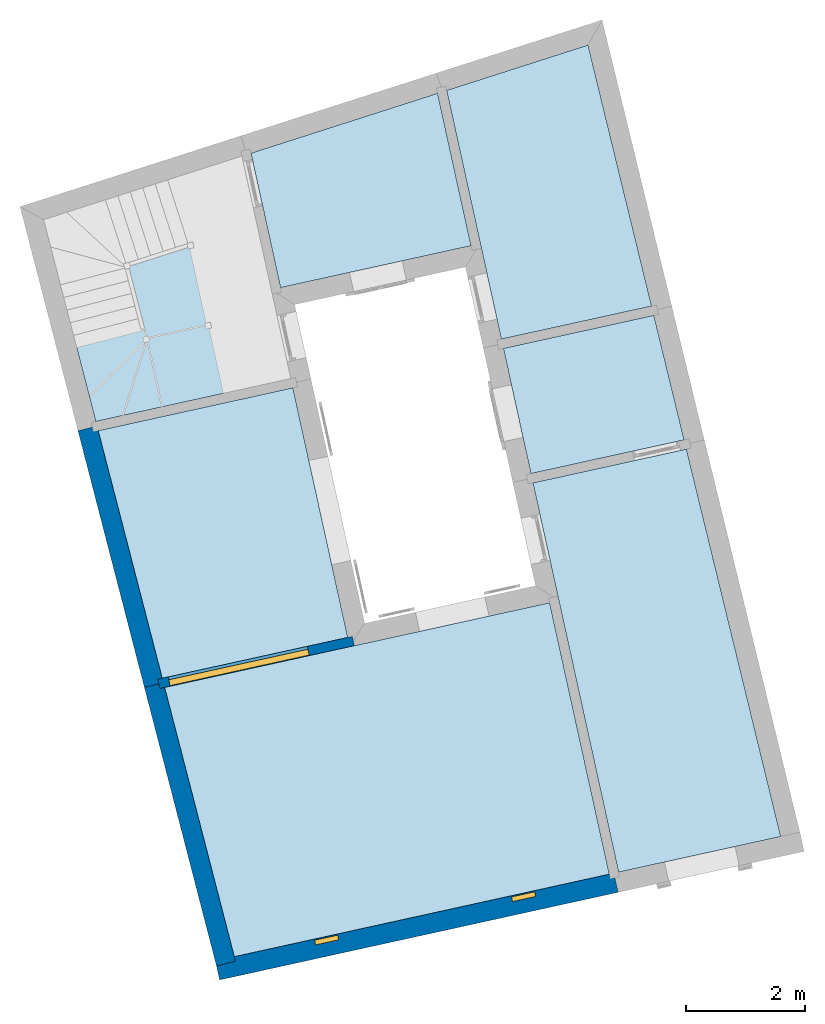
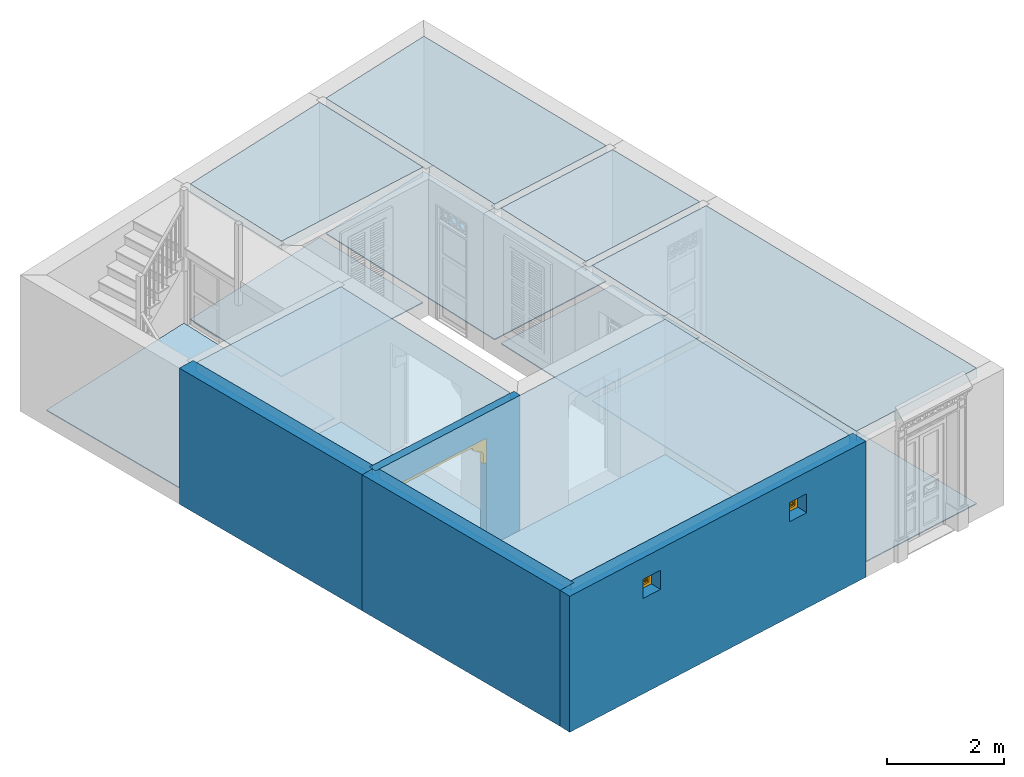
# One storey, part 1 of 14: 13 slabs, 4 walls, 2 windows, 1 door, 3 openings.
"""IFC4 building model written with IfcOpenShell, lengths in metres."""

from ifc_helpers import new_model, si_unit, frame, origin, origin_with_axes, place, context, subcontext, project, spatial, polyline, outline, extrude, faceted_brep, source, transform, mapped, material, layer, layer_set, layer_usage, type_object, type_shapes, element, fill, save


model = new_model("IFC4")

# Units and contexts
model_context = context("Model", 3, world=origin_with_axes())
body_context = subcontext(model_context, "Body", "Model", "MODEL_VIEW")
ifc_project = project(units=[si_unit("PLANEANGLEUNIT", "RADIAN"), si_unit("MASSUNIT", "GRAM", prefix="KILO"), si_unit("FORCEUNIT", "NEWTON", prefix="KILO"), si_unit("LENGTHUNIT", "METRE"), si_unit("AREAUNIT", "SQUARE_METRE"), si_unit("VOLUMEUNIT", "CUBIC_METRE")], contexts=[model_context, model_context])

# Site, building, storey
site_placement = place(None, origin_with_axes())
site = spatial("IfcSite", under=ifc_project, at=site_placement, Name="Site plot-2", CompositionType="ELEMENT")
building_placement = place(None, origin_with_axes())
building = spatial("IfcBuilding", under=site, at=building_placement, Name="Building plot-2", CompositionType="ELEMENT")
storey_placement = place(None, origin_with_axes())
storey = spatial("IfcBuildingStorey", under=building, at=storey_placement, Name="plot-2 0", CompositionType="ELEMENT", Elevation=0.0)

# Slabs
slab_1_placement = place(storey_placement, frame((8.18233238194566, 13.8200661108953, 0.0)))
element("IfcSlab", 1, at=slab_1_placement, inside=storey, Name="My Slab", ObjectType="Slab", PredefinedType="FLOOR", context=body_context, shape_type="SweptSolid", body=[
    extrude(outline(polyline([(0.0, 0.0), (0.880315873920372, -3.40186433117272), (4.16822936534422, -2.67871012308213), (3.34323647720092, 1.07222600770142), (0.0, 0.0)])), origin_with_axes(), (0.0, 0.0, 1.0), 0.02),
])
slab_2_placement = place(storey_placement, frame((9.10275888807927, 10.2631995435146, 2.65)))
element("IfcSlab", 2, at=slab_2_placement, inside=storey, Name="My Slab", ObjectType="Slab", PredefinedType="FLOOR", context=body_context, shape_type="SweptSolid", body=[
    extrude(outline(polyline([(0.0, 0.0), (1.08004624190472, -4.17369593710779), (4.20762669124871, -3.48580589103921), (3.282172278, 0.721891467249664), (0.0, 0.0)])), origin_with_axes(), (0.0, 0.0, 1.0), 0.2),
])
slab_3_placement = place(storey_placement, frame((9.10275888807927, 10.2631995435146, 0.0)))
element("IfcSlab", 3, at=slab_3_placement, inside=storey, Name="My Slab", ObjectType="Slab", PredefinedType="FLOOR", context=body_context, shape_type="SweptSolid", body=[
    extrude(outline(polyline([(0.0, 0.0), (1.08004624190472, -4.17369593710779), (4.20762669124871, -3.48580589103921), (3.282172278, 0.721891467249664), (0.0, 0.0)])), origin_with_axes(), (0.0, 0.0, 1.0), 0.02),
])
slab_4_placement = place(storey_placement, frame((15.3894228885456, 13.3805511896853, 2.65)))
element("IfcSlab", 4, at=slab_4_placement, inside=storey, Name="My Slab", ObjectType="Slab", PredefinedType="FLOOR", context=body_context, shape_type="SweptSolid", body=[
    extrude(outline(polyline([(0.0, 0.0), (-0.565182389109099, 2.56967432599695), (-3.71082430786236, 1.56081985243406), (-3.21214504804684, -0.706489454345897), (0.0, 0.0)])), origin_with_axes(), (0.0, 0.0, 1.0), 0.2),
])
slab_5_placement = place(storey_placement, frame((15.3894228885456, 13.3805511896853, 0.0)))
element("IfcSlab", 5, at=slab_5_placement, inside=storey, Name="My Slab", ObjectType="Slab", PredefinedType="FLOOR", context=body_context, shape_type="SweptSolid", body=[
    extrude(outline(polyline([(0.0, 0.0), (-0.565182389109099, 2.56967432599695), (-3.71082430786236, 1.56081985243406), (-3.21214504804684, -0.706489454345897), (0.0, 0.0)])), origin_with_axes(), (0.0, 0.0, 1.0), 0.02),
])
slab_6_placement = place(storey_placement, frame((20.6099741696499, 3.42109614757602, 2.65)))
element("IfcSlab", 6, at=slab_6_placement, inside=storey, Name="My Slab", ObjectType="Slab", PredefinedType="FLOOR", context=body_context, shape_type="SweptSolid", body=[
    extrude(outline(polyline([(0.0, 0.0), (-1.59038398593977, 6.5307298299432), (-4.17745271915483, 5.96172165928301), (-2.73395737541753, -0.601315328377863), (0.0, 0.0)])), origin_with_axes(), (0.0, 0.0, 1.0), 0.2),
])
slab_7_placement = place(storey_placement, frame((20.6099741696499, 3.42109614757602, 0.0)))
element("IfcSlab", 7, at=slab_7_placement, inside=storey, Name="My Slab", ObjectType="Slab", PredefinedType="FLOOR", context=body_context, shape_type="SweptSolid", body=[
    extrude(outline(polyline([(0.0, 0.0), (-1.59038398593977, 6.5307298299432), (-4.17745271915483, 5.96172165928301), (-2.73395737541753, -0.601315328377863), (0.0, 0.0)])), origin_with_axes(), (0.0, 0.0, 1.0), 0.02),
])
slab_8_placement = place(storey_placement, frame((18.9817233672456, 10.1073217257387, 2.65)))
element("IfcSlab", 8, at=slab_8_placement, inside=storey, Name="My Slab", ObjectType="Slab", PredefinedType="FLOOR", context=body_context, shape_type="SweptSolid", body=[
    extrude(outline(polyline([(0.0, 0.0), (-0.511454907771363, 2.10023104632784), (-3.04778801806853, 1.54238183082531), (-2.58357133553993, -0.568238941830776), (0.0, 0.0)])), origin_with_axes(), (0.0, 0.0, 1.0), 0.2),
])
slab_9_placement = place(storey_placement, frame((18.9817233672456, 10.1073217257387, 0.0)))
element("IfcSlab", 9, at=slab_9_placement, inside=storey, Name="My Slab", ObjectType="Slab", PredefinedType="FLOOR", context=body_context, shape_type="SweptSolid", body=[
    extrude(outline(polyline([(0.0, 0.0), (-0.511454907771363, 2.10023104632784), (-3.04778801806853, 1.54238183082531), (-2.58357133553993, -0.568238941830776), (0.0, 0.0)])), origin_with_axes(), (0.0, 0.0, 1.0), 0.02),
])
slab_10_placement = place(storey_placement, frame((18.4324016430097, 12.363048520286, 2.65)))
element("IfcSlab", 10, at=slab_10_placement, inside=storey, Name="My Slab", ObjectType="Slab", PredefinedType="FLOOR", context=body_context, shape_type="SweptSolid", body=[
    extrude(outline(polyline([(0.0, 0.0), (-1.07166491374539, 4.40066932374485), (-3.45513142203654, 3.63625591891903), (-2.53283571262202, -0.557079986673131), (0.0, 0.0)])), origin_with_axes(), (0.0, 0.0, 1.0), 0.2),
])
slab_11_placement = place(storey_placement, frame((18.4324016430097, 12.363048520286, 0.0)))
element("IfcSlab", 11, at=slab_11_placement, inside=storey, Name="My Slab", ObjectType="Slab", PredefinedType="FLOOR", context=body_context, shape_type="SweptSolid", body=[
    extrude(outline(polyline([(0.0, 0.0), (-1.07166491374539, 4.40066932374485), (-3.45513142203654, 3.63625591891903), (-2.53283571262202, -0.557079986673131), (0.0, 0.0)])), origin_with_axes(), (0.0, 0.0, 1.0), 0.02),
])
slab_12_placement = place(storey_placement, frame((10.2229157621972, 5.93450137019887, 2.65)))
element("IfcSlab", 12, at=slab_12_placement, inside=storey, Name="My Slab", ObjectType="Slab", PredefinedType="FLOOR", context=body_context, shape_type="SweptSolid", body=[
    extrude(outline(polyline([(0.0, 0.0), (1.17473131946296, -4.53959390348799), (7.49683605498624, -3.14908996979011), (6.49024926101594, 1.42748617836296), (0.0, 0.0)])), origin_with_axes(), (0.0, 0.0, 1.0), 0.2),
])
slab_13_placement = place(storey_placement, frame((10.2229157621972, 5.93450137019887, 0.0)))
element("IfcSlab", 13, at=slab_13_placement, inside=storey, Name="My Slab", ObjectType="Slab", PredefinedType="FLOOR", context=body_context, shape_type="SweptSolid", body=[
    extrude(outline(polyline([(0.0, 0.0), (1.17473131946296, -4.53959390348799), (7.49683605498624, -3.14908996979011), (6.49024926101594, 1.42748617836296), (0.0, 0.0)])), origin_with_axes(), (0.0, 0.0, 1.0), 0.02),
])

# Wall, openings, windows
ifc_material_1 = material(Name="Masonry")
ifc_layer_1 = layer(ifc_material_1, 0.33, ventilated=False)
ifc_layer_set_1 = layer_set([ifc_layer_1], Name="exterior_0.08_0.25")
ifc_layer_usage_1 = layer_usage(ifc_layer_set_1, "AXIS2", "POSITIVE", -0.25)
wall_type_1 = type_object("IfcWallType", Name="exterior_0.08_0.25", PredefinedType="SOLIDWALL", material=ifc_layer_set_1)
wall_1_placement = place(storey_placement, frame((11.33951719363, 1.30021004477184, 0.0), z_axis=(0.0, 0.0, 1.0), x_axis=(0.976656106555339, 0.214808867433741, 0.0)))
wall_1 = element("IfcWall", 14, at=wall_1_placement, inside=storey, type_object=wall_type_1, material=ifc_layer_usage_1, Name="exterior", context=body_context, shape_type="SweptSolid", body=[
    extrude(outline(polyline([(-0.25, 0.08), (-0.250000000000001, -0.25), (6.63032952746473, -0.25), (6.63032952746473, 0.0799999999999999), (-0.25, 0.08)])), origin_with_axes(), (0.0, 0.0, 1.0), 2.85),
])
opening_1_placement = place(wall_1_placement, frame((1.45758238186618, 0.0, 2.0)))
opening_1 = element("IfcOpeningElement", 15, at=opening_1_placement, cuts=wall_1, Name="My Opening", ObjectType="Opening", context=body_context, shape_type="SweptSolid", body=[
    extrude(outline(polyline([(0.0, -0.27), (0.399999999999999, -0.27), (0.399999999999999, 1.1), (-6.66133814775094e-16, 1.1), (0.0, -0.27)])), origin_with_axes(), (0.0, 0.0, 1.0), 0.4),
])
opening_2_placement = place(wall_1_placement, frame((4.85758238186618, 0.0, 2.0)))
opening_2 = element("IfcOpeningElement", 16, at=opening_2_placement, cuts=wall_1, Name="My Opening", ObjectType="Opening", context=body_context, shape_type="SweptSolid", body=[
    extrude(outline(polyline([(0.0, -0.27), (0.400000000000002, -0.27), (0.4, 1.1), (8.88178419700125e-16, 1.1), (0.0, -0.27)])), origin_with_axes(), (0.0, 0.0, 1.0), 0.4),
])
window_type = type_object("IfcWindowType", Name="barred_window", PartitioningType="DOUBLE_PANEL_HORIZONTAL", PredefinedType="NOTDEFINED")
shared_shape_1 = source(origin(), body_context, "Body", "Brep", [
    faceted_brep([(0.4, 0.25, 0.4), (0.0, 0.25, 0.4), (0.06, 0.25, 0.34), (0.34, 0.25, 0.34), (0.06, 0.33, 0.34), (0.34, 0.33, 0.34), (0.34, 0.25, 0.06), (0.4, 0.25, 0.0), (0.4, 0.33, 0.4), (0.0, 0.33, 0.4), (0.0, 0.25, 0.0), (0.06, 0.25, 0.06), (0.06, 0.33, 0.06), (0.34, 0.33, 0.06), (0.4, 0.33, 0.0), (0.0, 0.33, 0.0), (0.136152, 0.28, 0.08), (0.08, 0.28, 0.08), (0.06, 0.28, 0.06), (0.136152, 0.28, 0.06), (0.136152, 0.29, 0.08), (0.08, 0.29, 0.08), (0.06, 0.28, 0.136152), (0.08, 0.28, 0.136152), (0.06, 0.29, 0.06), (0.136152, 0.29, 0.06), (0.170294, 0.28, 0.08), (0.170294, 0.28, 0.06), (0.136152, 0.28, 0.136152), (0.136152, 0.29, 0.136152), (0.08, 0.29, 0.136152), (0.06, 0.29, 0.136152), (0.08, 0.28, 0.170294), (0.06, 0.28, 0.170294), (0.170294, 0.29, 0.06), (0.229706, 0.28, 0.08), (0.229706, 0.28, 0.06), (0.156152, 0.28, 0.094142), (0.156152, 0.28, 0.136152), (0.185858, 0.28, 0.123848), (0.185858, 0.29, 0.123848), (0.156152, 0.29, 0.094142), (0.156152, 0.29, 0.136152), (0.229706, 0.29, 0.08), (0.170294, 0.29, 0.08), (0.2, 0.28, 0.109706), (0.2, 0.29, 0.109706), (0.06, 0.29, 0.170294), (0.094142, 0.28, 0.156152), (0.08, 0.28, 0.229706), (0.06, 0.28, 0.229706), (0.229706, 0.29, 0.06), (0.263848, 0.28, 0.08), (0.263848, 0.28, 0.06), (0.156152, 0.28, 0.156152), (0.136152, 0.28, 0.156152), (0.173553, 0.28, 0.136152), (0.173553, 0.29, 0.136152), (0.156152, 0.29, 0.156152), (0.136152, 0.29, 0.156152), (0.094142, 0.29, 0.156152), (0.08, 0.29, 0.170294), (0.06, 0.29, 0.229706), (0.123848, 0.28, 0.185858), (0.109706, 0.28, 0.2), (0.08, 0.29, 0.229706), (0.08, 0.28, 0.263848), (0.06, 0.28, 0.263848), (0.263848, 0.29, 0.06), (0.2, 0.28, 0.13799), (0.214142, 0.28, 0.123848), (0.34, 0.28, 0.06), (0.32, 0.28, 0.08), (0.181838, 0.28, 0.156152), (0.136152, 0.28, 0.173553), (0.156152, 0.28, 0.181838), (0.181838, 0.29, 0.156152), (0.2, 0.29, 0.13799), (0.214142, 0.29, 0.123848), (0.136152, 0.29, 0.173553), (0.156152, 0.29, 0.181838), (0.243848, 0.28, 0.094142), (0.243848, 0.29, 0.094142), (0.263848, 0.28, 0.136152), (0.263848, 0.29, 0.08), (0.263848, 0.29, 0.136152), (0.32, 0.29, 0.08), (0.243848, 0.28, 0.136152), (0.243848, 0.29, 0.136152), (0.06, 0.29, 0.263848), (0.123848, 0.29, 0.185858), (0.13799, 0.28, 0.2), (0.123848, 0.28, 0.214142), (0.109706, 0.29, 0.2), (0.094142, 0.28, 0.243848), (0.08, 0.28, 0.32), (0.06, 0.28, 0.34), (0.34, 0.29, 0.06), (0.218162, 0.28, 0.156152), (0.226447, 0.28, 0.136152), (0.34, 0.28, 0.229706), (0.32, 0.28, 0.229706), (0.32, 0.28, 0.170294), (0.32, 0.28, 0.136152), (0.218162, 0.29, 0.156152), (0.226447, 0.29, 0.136152), (0.13799, 0.29, 0.2), (0.32, 0.29, 0.136152), (0.08, 0.29, 0.263848), (0.06, 0.29, 0.34), (0.136152, 0.28, 0.226447), (0.156152, 0.28, 0.218162), (0.094142, 0.29, 0.243848), (0.123848, 0.29, 0.214142), (0.136152, 0.28, 0.243848), (0.136152, 0.28, 0.263848), (0.08, 0.29, 0.32), (0.136152, 0.28, 0.34), (0.136152, 0.28, 0.32), (0.34, 0.29, 0.229706), (0.243848, 0.28, 0.156152), (0.263848, 0.28, 0.156152), (0.34, 0.28, 0.263848), (0.32, 0.28, 0.263848), (0.32, 0.29, 0.229706), (0.32, 0.29, 0.170294), (0.290294, 0.28, 0.2), (0.276152, 0.28, 0.185858), (0.305858, 0.28, 0.156152), (0.243848, 0.29, 0.156152), (0.263848, 0.29, 0.156152), (0.305858, 0.29, 0.156152), (0.276152, 0.29, 0.185858), (0.290294, 0.29, 0.2), (0.136152, 0.29, 0.34), (0.136152, 0.29, 0.226447), (0.156152, 0.29, 0.218162), (0.156152, 0.28, 0.243848), (0.136152, 0.29, 0.243848), (0.156152, 0.28, 0.263848), (0.136152, 0.29, 0.263848), (0.136152, 0.29, 0.32), (0.170294, 0.28, 0.32), (0.170294, 0.28, 0.34), (0.34, 0.29, 0.263848), (0.243848, 0.28, 0.181838), (0.263848, 0.28, 0.173553), (0.34, 0.28, 0.34), (0.32, 0.28, 0.32), (0.305858, 0.28, 0.243848), (0.276152, 0.28, 0.214142), (0.26201, 0.28, 0.2), (0.243848, 0.29, 0.181838), (0.263848, 0.29, 0.173553), (0.26201, 0.29, 0.2), (0.276152, 0.29, 0.214142), (0.32, 0.29, 0.263848), (0.170294, 0.29, 0.34), (0.156152, 0.29, 0.243848), (0.173553, 0.28, 0.263848), (0.181838, 0.28, 0.243848), (0.156152, 0.28, 0.305858), (0.229706, 0.28, 0.32), (0.229706, 0.28, 0.34), (0.34, 0.29, 0.34), (0.263848, 0.28, 0.34), (0.263848, 0.28, 0.32), (0.32, 0.29, 0.32), (0.263848, 0.28, 0.263848), (0.263848, 0.28, 0.243848), (0.305858, 0.29, 0.243848), (0.263848, 0.28, 0.226447), (0.243848, 0.28, 0.218162), (0.243848, 0.29, 0.218162), (0.263848, 0.29, 0.226447), (0.156152, 0.29, 0.263848), (0.170294, 0.29, 0.32), (0.229706, 0.29, 0.34), (0.181838, 0.29, 0.243848), (0.173553, 0.29, 0.263848), (0.185858, 0.28, 0.276152), (0.2, 0.28, 0.26201), (0.156152, 0.29, 0.305858), (0.229706, 0.29, 0.32), (0.263848, 0.29, 0.34), (0.263848, 0.29, 0.32), (0.263848, 0.29, 0.263848), (0.243848, 0.28, 0.243848), (0.243848, 0.28, 0.263848), (0.263848, 0.29, 0.243848), (0.243848, 0.29, 0.243848), (0.2, 0.29, 0.26201), (0.185858, 0.29, 0.276152), (0.214142, 0.28, 0.276152), (0.218162, 0.28, 0.243848), (0.226447, 0.28, 0.263848), (0.243848, 0.28, 0.305858), (0.2, 0.28, 0.290294), (0.2, 0.29, 0.290294), (0.243848, 0.29, 0.263848), (0.218162, 0.29, 0.243848), (0.214142, 0.29, 0.276152), (0.226447, 0.29, 0.263848), (0.243848, 0.29, 0.305858)], [[[0, 1, 2, 3]], [[3, 2, 4, 5]], [[3, 6, 7, 0]], [[1, 0, 8, 9]], [[1, 10, 11, 2]], [[2, 11, 12, 4]], [[9, 8, 5, 4]], [[6, 3, 5, 13]], [[6, 11, 10, 7]], [[0, 7, 14, 8]], [[10, 1, 9, 15]], [[11, 6, 13, 12]], [[4, 12, 15, 9]], [[8, 14, 13, 5]], [[7, 10, 15, 14]], [[12, 13, 14, 15]], [[16, 17, 18, 19]], [[17, 16, 20, 21]], [[22, 18, 17, 23]], [[19, 18, 24, 25]], [[26, 16, 19, 27]], [[16, 28, 29, 20]], [[21, 20, 25, 24]], [[23, 17, 21, 30]], [[18, 22, 31, 24]], [[23, 32, 33, 22]], [[27, 19, 25, 34]], [[35, 26, 27, 36]], [[28, 16, 37, 38]], [[37, 39, 40, 41]], [[38, 37, 41, 42]], [[20, 29, 42, 41]], [[26, 35, 43, 44]], [[45, 26, 44, 46]], [[20, 44, 34, 25]], [[28, 23, 30, 29]], [[24, 31, 30, 21]], [[22, 33, 47, 31]], [[48, 32, 23]], [[32, 49, 50, 33]], [[36, 27, 34, 51]], [[39, 37, 26, 45]], [[52, 35, 36, 53]], [[38, 54, 55, 28]], [[39, 56, 57, 40]], [[41, 40, 46, 44]], [[56, 38, 42, 57]], [[58, 42, 29, 59]], [[35, 45, 46, 43]], [[44, 43, 51, 34]], [[23, 28, 55, 48]], [[29, 30, 60, 59]], [[61, 30, 31, 47]], [[33, 50, 62, 47]], [[48, 63, 64, 32]], [[49, 32, 61, 65]], [[49, 66, 67, 50]], [[53, 36, 51, 68]], [[69, 39, 45, 70]], [[53, 71, 72, 52]], [[73, 54, 38, 56]], [[74, 55, 54, 75]], [[56, 39, 69, 73]], [[40, 57, 76, 77]], [[40, 77, 78, 46]], [[58, 76, 57, 42]], [[59, 79, 80, 58]], [[45, 35, 81, 70]], [[43, 46, 78, 82]], [[83, 52, 84, 85]], [[82, 84, 43]], [[52, 72, 86, 84]], [[43, 84, 68, 51]], [[44, 20, 41]], [[70, 81, 82, 78]], [[81, 87, 88, 82]], [[48, 55, 59, 60]], [[61, 60, 30]], [[65, 61, 47, 62]], [[50, 67, 89, 62]], [[63, 48, 60, 90]], [[63, 91, 92, 64]], [[32, 64, 93, 61]], [[64, 49, 65, 93]], [[94, 66, 49]], [[66, 95, 96, 67]], [[71, 53, 68, 97]], [[98, 69, 70, 99]], [[81, 52, 83, 87]], [[72, 71, 100]], [[100, 101, 102]], [[103, 72, 100]], [[100, 102, 103]], [[54, 73, 76, 58]], [[55, 74, 79, 59]], [[75, 54, 58, 80]], [[63, 74, 75, 91]], [[73, 69, 77, 76]], [[77, 104, 105, 78]], [[79, 90, 106, 80]], [[84, 82, 88, 85]], [[103, 83, 85, 107]], [[72, 103, 107, 86]], [[97, 68, 84, 86]], [[99, 70, 78, 105]], [[87, 99, 105, 88]], [[90, 60, 61, 93]], [[108, 65, 62, 89]], [[67, 96, 109, 89]], [[74, 63, 90, 79]], [[110, 92, 91, 111]], [[49, 64, 92, 94]], [[93, 65, 112, 113]], [[94, 114, 115, 66]], [[95, 66, 108, 116]], [[117, 96, 95, 118]], [[100, 71, 97, 119]], [[69, 98, 104, 77]], [[99, 87, 120, 98]], [[87, 83, 121, 120]], [[101, 100, 122, 123]], [[102, 101, 124, 125]], [[121, 83, 103]], [[103, 102, 126]], [[126, 127, 128]], [[128, 121, 103]], [[103, 126, 128]], [[91, 75, 80, 106]], [[88, 105, 104, 129]], [[106, 90, 93, 113]], [[85, 88, 129, 130]], [[107, 85, 130]], [[131, 132, 133]], [[107, 130, 131]], [[133, 125, 107]], [[107, 131, 133]], [[124, 119, 97]], [[97, 86, 107]], [[107, 125, 124]], [[97, 107, 124]], [[108, 112, 65]], [[116, 108, 89, 109]], [[96, 117, 134, 109]], [[92, 110, 135, 113]], [[111, 91, 106, 136]], [[114, 110, 111, 137]], [[94, 92, 113, 112]], [[114, 94, 112, 138]], [[114, 137, 139, 115]], [[66, 115, 140, 108]], [[118, 95, 116, 141]], [[118, 142, 143, 117]], [[122, 100, 119, 144]], [[98, 120, 129, 104]], [[145, 120, 121, 146]], [[122, 147, 148, 123]], [[123, 149, 101]], [[101, 126, 133, 124]], [[126, 102, 125, 133]], [[127, 126, 150, 151]], [[128, 127, 132, 131]], [[121, 128, 131, 130]], [[113, 135, 136, 106]], [[129, 152, 153, 130]], [[133, 132, 154, 155]], [[119, 124, 156, 144]], [[138, 112, 108, 140]], [[109, 134, 141, 116]], [[117, 143, 157, 134]], [[110, 114, 138, 135]], [[137, 111, 136, 158]], [[159, 139, 137, 160]], [[118, 115, 139, 161]], [[115, 118, 141, 140]], [[161, 142, 118]], [[162, 163, 143, 142]], [[147, 122, 144, 164]], [[120, 145, 152, 129]], [[146, 121, 130, 153]], [[146, 127, 151, 145]], [[147, 165, 166, 148]], [[123, 148, 167, 156]], [[149, 123, 168, 169]], [[149, 150, 126, 101]], [[155, 170, 124, 133]], [[151, 150, 171, 172]], [[127, 146, 153, 132]], [[135, 138, 158, 136]], [[132, 153, 152, 154]], [[155, 154, 173, 174]], [[170, 156, 124]], [[164, 144, 156, 167]], [[158, 138, 140, 175]], [[176, 141, 134, 157]], [[143, 163, 177, 157]], [[160, 137, 158, 178]], [[139, 159, 179, 175]], [[180, 159, 160, 181]], [[161, 139, 175, 182]], [[140, 141, 182, 175]], [[166, 165, 163, 162]], [[162, 142, 176, 183]], [[165, 147, 164, 184]], [[145, 151, 154, 152]], [[148, 166, 185, 167]], [[156, 186, 168, 123]], [[187, 169, 168, 188]], [[149, 169, 189, 170]], [[150, 149, 170, 155]], [[171, 150, 155, 174]], [[171, 169, 187, 172]], [[151, 172, 173, 154]], [[189, 174, 173, 190]], [[156, 170, 189, 186]], [[184, 164, 167, 185]], [[175, 179, 178, 158]], [[176, 182, 141]], [[177, 183, 176, 157]], [[163, 165, 184, 177]], [[181, 160, 178, 191]], [[159, 180, 192, 179]], [[180, 161, 182, 192]], [[193, 181, 194, 195]], [[196, 162, 197, 193]], [[180, 197, 142, 161]], [[197, 180, 181, 193]], [[142, 197, 198, 176]], [[162, 196, 166]], [[35, 52, 81]], [[197, 162, 183, 198]], [[185, 166, 168, 186]], [[196, 188, 168, 166]], [[187, 188, 195, 194]], [[169, 171, 174, 189]], [[172, 187, 190, 173]], [[189, 190, 199, 186]], [[184, 185, 183, 177]], [[179, 192, 191, 178]], [[176, 198, 192, 182]], [[194, 181, 191, 200]], [[191, 192, 198, 201]], [[26, 37, 16]], [[193, 195, 202, 201]], [[196, 193, 201, 203]], [[191, 201, 202, 200]], [[183, 203, 201, 198]], [[188, 196, 203, 199]], [[203, 183, 185]], [[199, 203, 185, 186]], [[195, 188, 199, 202]], [[187, 194, 200, 190]], [[199, 190, 200, 202]]]),
])
type_shapes(window_type, [shared_shape_1])
window_1_placement = place(storey_placement, frame((12.8210723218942, 1.34961451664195, 2.0), z_axis=(0.0, 0.0, 1.0), x_axis=(0.390662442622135, 0.0859235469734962, 0.0)))
window_1 = element("IfcWindow", 17, at=window_1_placement, inside=storey, type_object=window_type, Name="living street window", OverallHeight=0.4, OverallWidth=0.4, context=body_context, shape_type="MappedRepresentation", body=[
    mapped(shared_shape_1, transform((0.0, 0.0, 0.0), scale=1.0)),
])
fill(opening_1, window_1)
window_2_placement = place(storey_placement, frame((16.1417030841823, 2.07996466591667, 2.0), z_axis=(0.0, 0.0, 1.0), x_axis=(0.390662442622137, 0.0859235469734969, 0.0)))
window_2 = element("IfcWindow", 18, at=window_2_placement, inside=storey, type_object=window_type, Name="living street window", OverallHeight=0.4, OverallWidth=0.4, context=body_context, shape_type="MappedRepresentation", body=[
    mapped(shared_shape_1, transform((0.0, 0.0, 0.0), scale=1.0)),
])
fill(opening_2, window_2)

# Walls
ifc_material_2 = material(Name="Masonry")
ifc_layer_2 = layer(ifc_material_2, 0.33, ventilated=False)
ifc_layer_set_2 = layer_set([ifc_layer_2], Name="party_0.08_0.25")
ifc_layer_usage_2 = layer_usage(ifc_layer_set_2, "AXIS2", "POSITIVE", -0.25)
wall_type_2 = type_object("IfcWallType", Name="party_0.08_0.25", PredefinedType="SOLIDWALL", material=ifc_layer_set_2)
wall_2_placement = place(storey_placement, frame((9.00451836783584, 10.3235043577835, 0.0), z_axis=(0.0, 0.0, 1.0), x_axis=(0.250522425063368, -0.968110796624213, 0.0)))
element("IfcWall", 19, at=wall_2_placement, inside=storey, type_object=wall_type_2, material=ifc_layer_usage_2, Name="party", context=body_context, shape_type="SweptSolid", body=[
    extrude(outline(polyline([(-9.01043400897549e-16, 0.0800000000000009), (1.50838797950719e-15, -0.249999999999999), (4.4712838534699, -0.250000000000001), (4.4712838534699, 0.0800000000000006), (-9.01043400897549e-16, 0.0800000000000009)])), origin_with_axes(), (0.0, 0.0, 1.0), 2.85),
])
wall_3_placement = place(storey_placement, frame((10.1246752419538, 5.99480618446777, 0.0), z_axis=(0.0, 0.0, 1.0), x_axis=(0.25052242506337, -0.968110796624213, 0.0)))
element("IfcWall", 20, at=wall_3_placement, inside=storey, type_object=wall_type_2, material=ifc_layer_usage_2, Name="party", context=body_context, shape_type="SweptSolid", body=[
    extrude(outline(polyline([(9.37164291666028e-17, 0.0800000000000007), (-2.67968859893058e-16, -0.250000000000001), (4.84923436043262, -0.249999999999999), (4.84923436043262, 0.0800000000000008), (9.37164291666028e-17, 0.0800000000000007)])), origin_with_axes(), (0.0, 0.0, 1.0), 2.85),
])

# Wall, opening, door
ifc_material_3 = material(Name="Masonry")
ifc_layer_3 = layer(ifc_material_3, 0.16, ventilated=False)
ifc_layer_set_3 = layer_set([ifc_layer_3], Name="interior_0.08_0.08")
ifc_layer_usage_3 = layer_usage(ifc_layer_set_3, "AXIS2", "POSITIVE", -0.08)
wall_type_3 = type_object("IfcWallType", Name="interior_0.08_0.08", PredefinedType="SOLIDWALL", material=ifc_layer_set_3)
wall_4_placement = place(storey_placement, frame((10.1246752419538, 5.99480618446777, 0.0), z_axis=(0.0, 0.0, 1.0), x_axis=(0.976656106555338, 0.214808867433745, 0.0)))
wall_4 = element("IfcWall", 21, at=wall_4_placement, inside=storey, type_object=wall_type_3, material=ifc_layer_usage_3, Name="interior", context=body_context, shape_type="SweptSolid", body=[
    extrude(outline(polyline([(-6.61556863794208e-17, 0.0800000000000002), (7.59528607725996e-17, -0.0800000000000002), (3.35945018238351, -0.0800000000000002), (3.35945018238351, 0.0800000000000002), (-6.61556863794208e-17, 0.0800000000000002)])), origin_with_axes(), (0.0, 0.0, 1.0), 2.85),
])
opening_3_placement = place(wall_4_placement, frame((0.18, 0.0, 0.02)))
opening_3 = element("IfcOpeningElement", 22, at=opening_3_placement, cuts=wall_4, Name="My Opening", ObjectType="Opening", context=body_context, shape_type="SweptSolid", body=[
    extrude(outline(polyline([(0.0, -0.0999999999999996), (2.4, -0.0999999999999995), (2.4, 1.1), (-5.55111512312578e-17, 1.1), (0.0, -0.0999999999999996)])), origin_with_axes(), (0.0, 0.0, 1.0), 2.3),
])
door_type = type_object("IfcDoorType", Name="arch-2400x2300-thin", OperationType="SINGLE_SWING_LEFT", PredefinedType="NOTDEFINED")
shared_shape_2 = source(origin(), body_context, "Body", "Brep", [
    faceted_brep([(2.4, 0.03, 1.78), (2.4, 0.03, 1.95), (2.34, 0.03, 1.95), (2.34, 0.03, 1.78), (2.34, 0.13, 1.95), (2.34, 0.13, 1.78), (2.4, 0.03, 2.12), (2.329, 0.03, 2.004), (2.4, 0.13, 1.78), (2.4, 0.13, 1.95), (2.329, 0.13, 2.004), (2.299, 0.03, 2.049), (2.4, 0.13, 2.12), (2.299, 0.13, 2.049), (2.254, 0.03, 2.079), (2.4, 0.13, 2.29), (2.4, 0.03, 2.29), (2.254, 0.13, 2.079), (2.2, 0.03, 2.09), (2.2, 0.03, 2.12), (2.154, 0.03, 2.129), (2.08, 0.13, 2.29), (2.08, 0.03, 2.29), (2.2, 0.13, 2.12), (2.154, 0.13, 2.129), (2.2, 0.13, 2.09), (2.115, 0.03, 2.155), (2.089, 0.13, 2.194), (2.08, 0.13, 2.24), (2.08, 0.03, 2.24), (2.089, 0.03, 2.194), (2.115, 0.13, 2.155), (0.06, 0.03, 1.78), (0.06, 0.03, 1.95), (0.0, 0.03, 1.95), (0.0, 0.03, 1.78), (0.06, 0.13, 1.78), (0.06, 0.13, 1.95), (0.071, 0.03, 2.004), (0.0, 0.03, 2.12), (0.0, 0.13, 1.95), (0.0, 0.13, 1.78), (0.071, 0.13, 2.004), (0.101, 0.03, 2.049), (0.0, 0.13, 2.12), (0.101, 0.13, 2.049), (0.146, 0.03, 2.079), (0.0, 0.03, 2.29), (0.0, 0.13, 2.29), (0.146, 0.13, 2.079), (0.2, 0.03, 2.12), (0.2, 0.03, 2.09), (0.246, 0.03, 2.129), (0.32, 0.03, 2.29), (0.32, 0.13, 2.29), (0.246, 0.13, 2.129), (0.2, 0.13, 2.12), (0.2, 0.13, 2.09), (0.285, 0.03, 2.155), (0.32, 0.13, 2.24), (0.311, 0.13, 2.194), (0.311, 0.03, 2.194), (0.32, 0.03, 2.24), (0.285, 0.13, 2.155)], [[[0, 1, 2, 3]], [[4, 5, 3, 2]], [[1, 6, 7, 2]], [[1, 0, 8, 9]], [[5, 8, 0, 3]], [[5, 4, 9, 8]], [[10, 4, 2, 7]], [[6, 11, 7]], [[6, 1, 9, 12]], [[4, 10, 12, 9]], [[13, 10, 7, 11]], [[6, 14, 11]], [[12, 15, 16, 6]], [[12, 10, 13]], [[17, 13, 11, 14]], [[18, 14, 6, 19]], [[6, 16, 20, 19]], [[16, 15, 21, 22]], [[23, 24, 15, 12]], [[12, 13, 17]], [[25, 17, 14, 18]], [[23, 25, 18, 19]], [[24, 23, 19, 20]], [[16, 26, 20]], [[15, 27, 28, 21]], [[16, 22, 29, 30]], [[31, 15, 24]], [[23, 12, 17, 25]], [[31, 24, 20, 26]], [[16, 30, 26]], [[28, 27, 30, 29]], [[27, 15, 31]], [[27, 31, 26, 30]], [[32, 33, 34, 35]], [[33, 32, 36, 37]], [[33, 38, 39, 34]], [[35, 34, 40, 41]], [[32, 35, 41, 36]], [[41, 40, 37, 36]], [[38, 33, 37, 42]], [[38, 43, 39]], [[44, 40, 34, 39]], [[40, 44, 42, 37]], [[43, 38, 42, 45]], [[43, 46, 39]], [[39, 47, 48, 44]], [[45, 42, 44]], [[46, 43, 45, 49]], [[50, 39, 46, 51]], [[50, 52, 47, 39]], [[53, 54, 48, 47]], [[44, 48, 55, 56]], [[49, 45, 44]], [[51, 46, 49, 57]], [[50, 51, 57, 56]], [[52, 50, 56, 55]], [[52, 58, 47]], [[54, 59, 60, 48]], [[61, 62, 53, 47]], [[55, 48, 63]], [[57, 49, 44, 56]], [[58, 52, 55, 63]], [[58, 61, 47]], [[62, 61, 60, 59]], [[63, 48, 60]], [[61, 58, 63, 60]], [[62, 59, 28, 29]], [[59, 54, 21, 28]], [[53, 62, 29, 22]], [[54, 53, 22, 21]]]),
])
type_shapes(door_type, [shared_shape_2])
door_placement = place(storey_placement, frame((10.3219542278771, 5.93580616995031, 0.02), z_axis=(0.0, 0.0, 1.0), x_axis=(2.34397465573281, 0.515541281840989, 0.0)))
door = element("IfcDoor", 23, at=door_placement, inside=storey, type_object=door_type, Name="kitchen living inside door", OverallHeight=2.3, OverallWidth=2.4, context=body_context, shape_type="MappedRepresentation", body=[
    mapped(shared_shape_2, transform((0.0, 0.0, 0.0), scale=1.0)),
])
fill(opening_3, door)

save(model, "model.ifc")
